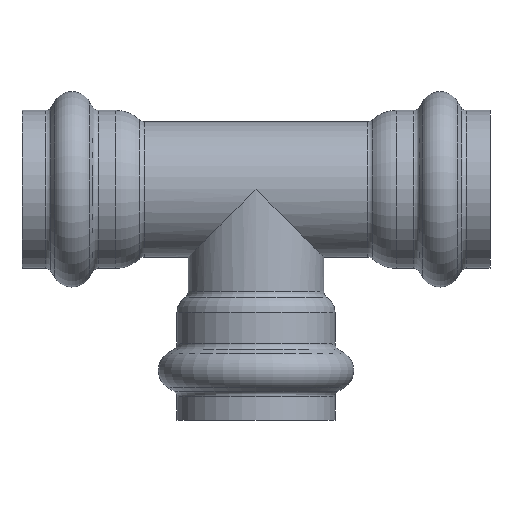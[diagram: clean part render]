
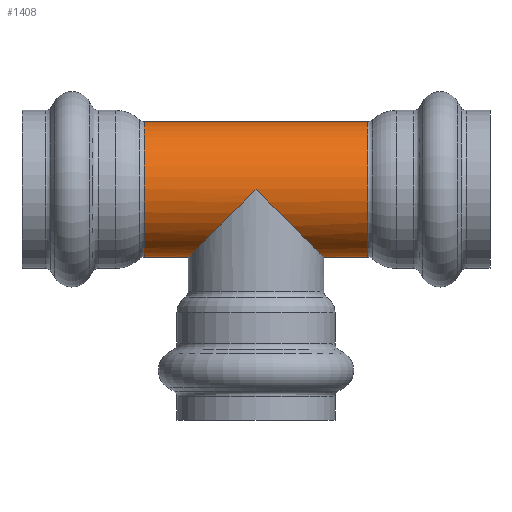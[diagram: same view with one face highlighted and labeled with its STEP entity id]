
A CAD part, top view. The second image highlights one B-rep face of the part: STEP entity #1408.
In plain terms, the highlighted cylindrical face has radius 16.701 mm (diameter 33.401 mm), a full revolution.
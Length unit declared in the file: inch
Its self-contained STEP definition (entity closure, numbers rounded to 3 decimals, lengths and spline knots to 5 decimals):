
#134=FACE_OUTER_BOUND('',#197,.T.);
#197=EDGE_LOOP('',(#1132,#1133,#1134,#1135,#1136,#1137,#1138,#1139,#1140,
#1141,#1142,#1143,#1144,#1145));
#334=CIRCLE('',#1613,0.6575);
#335=CIRCLE('',#1614,0.6575);
#336=CIRCLE('',#1615,0.6575);
#337=CIRCLE('',#1617,0.6575);
#338=CIRCLE('',#1618,0.6575);
#339=CIRCLE('',#1619,0.6575);
#420=LINE('',#2574,#450);
#421=LINE('',#2575,#451);
#450=VECTOR('',#2076,0.6575);
#451=VECTOR('',#2077,0.6575);
#464=ELLIPSE('',#1487,0.92985,0.6575);
#465=ELLIPSE('',#1488,0.92985,0.6575);
#466=ELLIPSE('',#1489,0.92985,0.6575);
#467=ELLIPSE('',#1490,0.92985,0.6575);
#492=VERTEX_POINT('',#2340);
#493=VERTEX_POINT('',#2341);
#494=VERTEX_POINT('',#2343);
#495=VERTEX_POINT('',#2345);
#572=VERTEX_POINT('',#2561);
#573=VERTEX_POINT('',#2563);
#574=VERTEX_POINT('',#2565);
#575=VERTEX_POINT('',#2569);
#576=VERTEX_POINT('',#2570);
#577=VERTEX_POINT('',#2572);
#661=EDGE_CURVE('',#492,#493,#464,.T.);
#662=EDGE_CURVE('',#494,#492,#465,.T.);
#663=EDGE_CURVE('',#495,#494,#466,.T.);
#665=EDGE_CURVE('',#493,#495,#467,.T.);
#772=EDGE_CURVE('',#573,#572,#334,.T.);
#773=EDGE_CURVE('',#574,#573,#335,.T.);
#774=EDGE_CURVE('',#572,#574,#336,.T.);
#775=EDGE_CURVE('',#575,#576,#337,.T.);
#776=EDGE_CURVE('',#577,#575,#338,.T.);
#777=EDGE_CURVE('',#577,#493,#420,.T.);
#778=EDGE_CURVE('',#494,#574,#421,.T.);
#779=EDGE_CURVE('',#576,#577,#339,.T.);
#1132=ORIENTED_EDGE('',*,*,#775,.F.);
#1133=ORIENTED_EDGE('',*,*,#776,.F.);
#1134=ORIENTED_EDGE('',*,*,#777,.T.);
#1135=ORIENTED_EDGE('',*,*,#665,.T.);
#1136=ORIENTED_EDGE('',*,*,#663,.T.);
#1137=ORIENTED_EDGE('',*,*,#778,.T.);
#1138=ORIENTED_EDGE('',*,*,#773,.T.);
#1139=ORIENTED_EDGE('',*,*,#772,.T.);
#1140=ORIENTED_EDGE('',*,*,#774,.T.);
#1141=ORIENTED_EDGE('',*,*,#778,.F.);
#1142=ORIENTED_EDGE('',*,*,#662,.T.);
#1143=ORIENTED_EDGE('',*,*,#661,.T.);
#1144=ORIENTED_EDGE('',*,*,#777,.F.);
#1145=ORIENTED_EDGE('',*,*,#779,.F.);
#1299=CYLINDRICAL_SURFACE('',#1616,0.6575);
#1408=ADVANCED_FACE('',(#134),#1299,.T.);
#1487=AXIS2_PLACEMENT_3D('',#2342,#1796,#1797);
#1488=AXIS2_PLACEMENT_3D('',#2344,#1798,#1799);
#1489=AXIS2_PLACEMENT_3D('',#2346,#1800,#1801);
#1490=AXIS2_PLACEMENT_3D('',#2348,#1803,#1804);
#1613=AXIS2_PLACEMENT_3D('',#2564,#2064,#2065);
#1614=AXIS2_PLACEMENT_3D('',#2566,#2066,#2067);
#1615=AXIS2_PLACEMENT_3D('',#2567,#2068,#2069);
#1616=AXIS2_PLACEMENT_3D('',#2568,#2070,#2071);
#1617=AXIS2_PLACEMENT_3D('',#2571,#2072,#2073);
#1618=AXIS2_PLACEMENT_3D('',#2573,#2074,#2075);
#1619=AXIS2_PLACEMENT_3D('',#2576,#2078,#2079);
#1796=DIRECTION('center_axis',(0.707,0.707,0.));
#1797=DIRECTION('ref_axis',(0.707,-0.707,0.));
#1798=DIRECTION('center_axis',(-0.707,0.707,0.));
#1799=DIRECTION('ref_axis',(0.707,0.707,0.));
#1800=DIRECTION('center_axis',(-0.707,0.707,0.));
#1801=DIRECTION('ref_axis',(0.707,0.707,0.));
#1803=DIRECTION('center_axis',(0.707,0.707,0.));
#1804=DIRECTION('ref_axis',(0.707,-0.707,0.));
#2064=DIRECTION('center_axis',(1.,0.,0.));
#2065=DIRECTION('ref_axis',(0.,1.,0.));
#2066=DIRECTION('center_axis',(1.,0.,0.));
#2067=DIRECTION('ref_axis',(0.,1.,0.));
#2068=DIRECTION('center_axis',(1.,0.,0.));
#2069=DIRECTION('ref_axis',(0.,1.,0.));
#2070=DIRECTION('center_axis',(1.,0.,0.));
#2071=DIRECTION('ref_axis',(0.,1.,0.));
#2072=DIRECTION('center_axis',(1.,0.,0.));
#2073=DIRECTION('ref_axis',(0.,1.,0.));
#2074=DIRECTION('center_axis',(1.,0.,0.));
#2075=DIRECTION('ref_axis',(0.,1.,0.));
#2076=DIRECTION('',(-1.,0.,0.));
#2077=DIRECTION('',(-1.,0.,0.));
#2078=DIRECTION('center_axis',(1.,0.,0.));
#2079=DIRECTION('ref_axis',(0.,1.,0.));
#2340=CARTESIAN_POINT('',(0.,0.,0.6575));
#2341=CARTESIAN_POINT('',(0.6575,-0.6575,0.));
#2342=CARTESIAN_POINT('Origin',(0.,0.,0.));
#2343=CARTESIAN_POINT('',(-0.6575,-0.6575,0.));
#2344=CARTESIAN_POINT('Origin',(0.,0.,0.));
#2345=CARTESIAN_POINT('',(0.,0.,-0.6575));
#2346=CARTESIAN_POINT('Origin',(0.,0.,0.));
#2348=CARTESIAN_POINT('Origin',(0.,0.,0.));
#2561=CARTESIAN_POINT('',(-1.08535,0.,0.6575));
#2563=CARTESIAN_POINT('',(-1.08535,0.6575,0.));
#2564=CARTESIAN_POINT('Origin',(-1.08535,0.,0.));
#2565=CARTESIAN_POINT('',(-1.08535,-0.6575,0.));
#2566=CARTESIAN_POINT('Origin',(-1.08535,0.,0.));
#2567=CARTESIAN_POINT('Origin',(-1.08535,0.,0.));
#2568=CARTESIAN_POINT('Origin',(0.54268,0.,0.));
#2569=CARTESIAN_POINT('',(1.08535,0.6575,0.));
#2570=CARTESIAN_POINT('',(1.08535,0.,0.6575));
#2571=CARTESIAN_POINT('Origin',(1.08535,0.,0.));
#2572=CARTESIAN_POINT('',(1.08535,-0.6575,0.));
#2573=CARTESIAN_POINT('Origin',(1.08535,0.,0.));
#2574=CARTESIAN_POINT('',(0.54268,-0.6575,0.));
#2575=CARTESIAN_POINT('',(0.54268,-0.6575,0.));
#2576=CARTESIAN_POINT('Origin',(1.08535,0.,0.));
